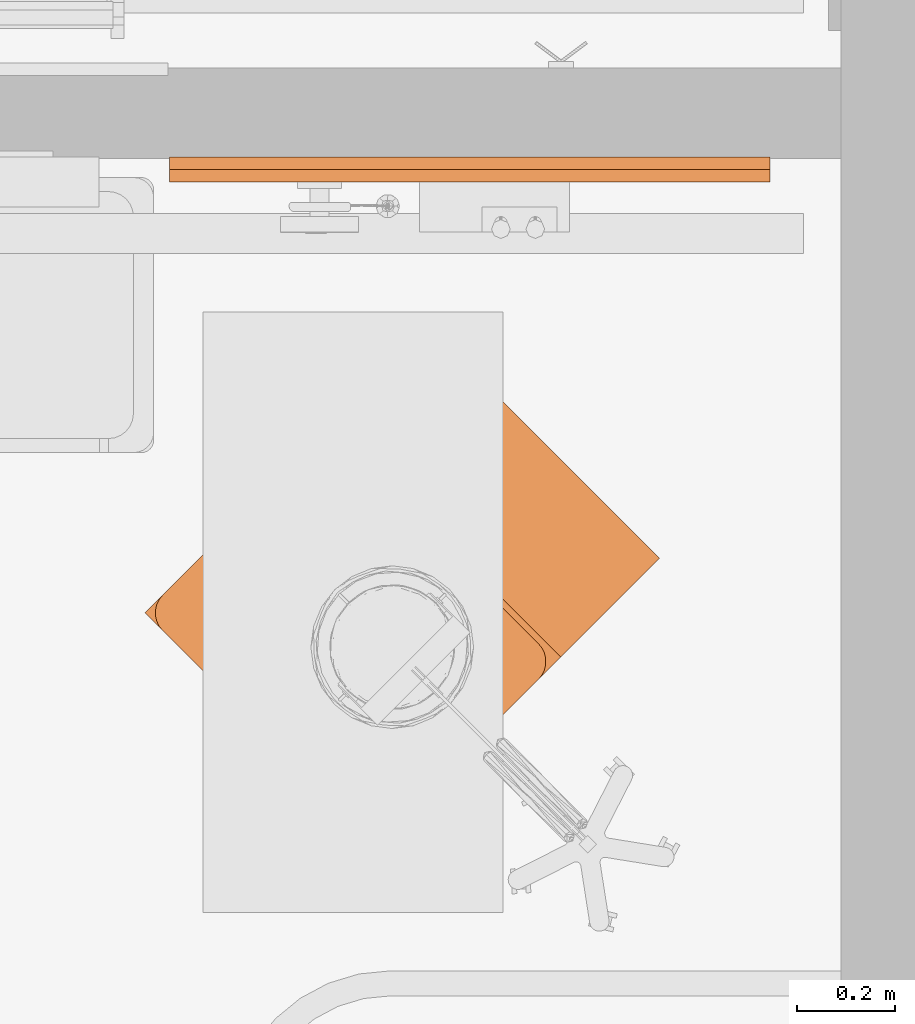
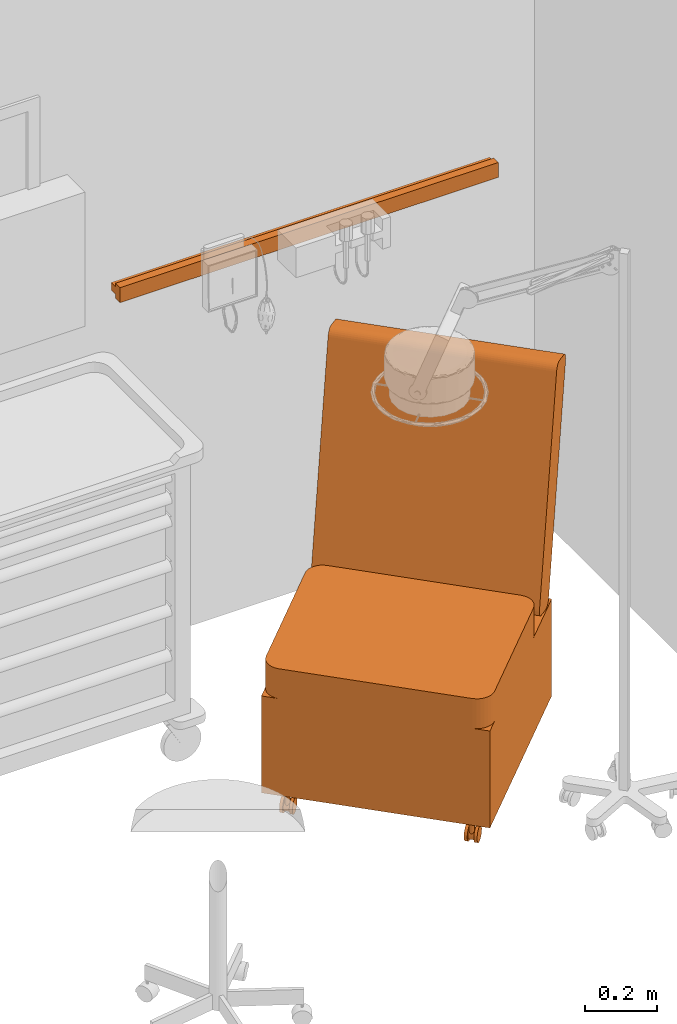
# One storey, part 67 of 142: 2 proxies.
"""IFC2X3 building model written with IfcOpenShell, lengths in feet."""

from ifc_helpers import new_model, entity, si_unit, converted_unit, derived_unit, direction, frame, frame_2d, origin, origin_2d_with_axis, place, context, subcontext, project, spatial, polyline, circle_curve, parameter, trimmed, segment, composite_curve, rectangle, circle, outline, extrude, source, transform, mapped, type_object, type_shapes, element, save


model = new_model("IFC2X3")

# Units and contexts
model_context = context("Model", 3, precision=0.0001, world=origin(), true_north=direction((6.12303176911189e-17, 1.0)))
body_context = subcontext(model_context, "Body", "Model", "MODEL_VIEW")
ifc_project = project(units=[converted_unit("LENGTHUNIT", "FOOT", entity("IfcRatioMeasure", 0.3048), si_unit("LENGTHUNIT", "METRE"), dimensions=[1, 0, 0, 0, 0, 0, 0]), converted_unit("AREAUNIT", "SQUARE FOOT", entity("IfcRatioMeasure", 0.09290304), si_unit("AREAUNIT", "SQUARE_METRE"), dimensions=[2, 0, 0, 0, 0, 0, 0]), converted_unit("VOLUMEUNIT", "CUBIC FOOT", entity("IfcRatioMeasure", 0.028316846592), si_unit("VOLUMEUNIT", "CUBIC_METRE"), dimensions=[3, 0, 0, 0, 0, 0, 0]), converted_unit("PLANEANGLEUNIT", "DEGREE", entity("IfcRatioMeasure", 0.0174532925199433), si_unit("PLANEANGLEUNIT", "RADIAN"), dimensions=[0, 0, 0, 0, 0, 0, 0]), si_unit("MASSUNIT", "GRAM", prefix="KILO"), derived_unit("MASSDENSITYUNIT", [(si_unit("MASSUNIT", "GRAM", prefix="KILO"), 1), (si_unit("LENGTHUNIT", "METRE"), -3)]), si_unit("TIMEUNIT", "SECOND"), si_unit("FREQUENCYUNIT", "HERTZ"), si_unit("THERMODYNAMICTEMPERATUREUNIT", "DEGREE_CELSIUS"), derived_unit("THERMALTRANSMITTANCEUNIT", [(si_unit("MASSUNIT", "GRAM", prefix="KILO"), 1), (si_unit("THERMODYNAMICTEMPERATUREUNIT", "KELVIN"), -1), (si_unit("TIMEUNIT", "SECOND"), -3)]), derived_unit("VOLUMETRICFLOWRATEUNIT", [(si_unit("LENGTHUNIT", "METRE"), 3), (si_unit("TIMEUNIT", "SECOND"), -1)]), si_unit("ELECTRICCURRENTUNIT", "AMPERE"), si_unit("ELECTRICVOLTAGEUNIT", "VOLT"), si_unit("POWERUNIT", "WATT"), si_unit("FORCEUNIT", "NEWTON"), si_unit("ILLUMINANCEUNIT", "LUX"), si_unit("LUMINOUSFLUXUNIT", "LUMEN"), si_unit("LUMINOUSINTENSITYUNIT", "CANDELA"), derived_unit("USERDEFINED", [(si_unit("MASSUNIT", "GRAM", prefix="KILO"), -1), (si_unit("LENGTHUNIT", "METRE"), -2), (si_unit("TIMEUNIT", "SECOND"), 3), (si_unit("LUMINOUSFLUXUNIT", "LUMEN"), 1)]), derived_unit("LINEARVELOCITYUNIT", [(si_unit("LENGTHUNIT", "METRE"), 1), (si_unit("TIMEUNIT", "SECOND"), -1)]), si_unit("PRESSUREUNIT", "PASCAL"), derived_unit("USERDEFINED", [(si_unit("LENGTHUNIT", "METRE"), -2), (si_unit("MASSUNIT", "GRAM", prefix="KILO"), 1), (si_unit("TIMEUNIT", "SECOND"), -2)])], contexts=[model_context])

# Site, building, storey, space
site_placement = place(None, origin())
site = spatial("IfcSite", under=ifc_project, at=site_placement, Name="Default", CompositionType="ELEMENT")
building_placement = place(site_placement, origin())
building = spatial("IfcBuilding", under=site, at=building_placement, Name="OUTPATIENT / PACT CLINIC (Ch. 265)", CompositionType="ELEMENT")
storey_placement = place(building_placement, origin())
storey = spatial("IfcBuildingStorey", under=building, at=storey_placement, Name="LEVEL 1", CompositionType="ELEMENT", Elevation=0.0)
space_placement = place(storey_placement, origin())
space = spatial("IfcSpace", under=storey, at=space_placement, Name="EXPA1", CompositionType="ELEMENT", InteriorOrExteriorSpace="INTERNAL")

# Proxies
building_element_proxy_type_1 = type_object("IfcBuildingElementProxyType", Name="Exam/Treatment Table with Cabinet", PredefinedType="NOTDEFINED")
shared_shape_1 = source(origin(), body_context, "Body", "SweptSolid", [
    extrude(circle(Radius=0.0833333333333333, at=frame_2d((0.0, -1.38777878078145e-16), x_axis=(1.0, 0.0))), frame((-0.843750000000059, 0.432291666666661, 0.0833333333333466), z_axis=(1.0, 0.0, 0.0), x_axis=(0.0, 1.0, 0.0)), (0.0, 0.0, 1.0), 0.0312500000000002),
    extrude(circle(Radius=0.0260416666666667, at=frame_2d((0.0, -5.55111512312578e-17), x_axis=(1.0, 0.0))), frame((-0.87500000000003, 0.463541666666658, 0.0801325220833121), z_axis=(0.0, 0.0, 1.0), x_axis=(-1.0, 0.0, 0.0)), (0.0, 0.0, 1.0), 0.211534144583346),
    extrude(circle(Radius=0.0625, at=frame_2d((0.0, -2.77555756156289e-16), x_axis=(1.0, 0.0))), frame((-0.90625000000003, 0.432291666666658, 0.0833333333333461), z_axis=(1.0, 0.0, 0.0), x_axis=(0.0, -1.0, 0.0)), (0.0, 0.0, 1.0), 0.0625),
    extrude(circle(Radius=0.0833333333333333, at=frame_2d((0.0, -1.38777878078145e-16), x_axis=(1.0, 0.0))), frame((-0.93750000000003, 0.432291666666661, 0.0833333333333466), z_axis=(1.0, 0.0, 0.0), x_axis=(0.0, 1.0, 0.0)), (0.0, 0.0, 1.0), 0.0312500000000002),
    extrude(circle(Radius=0.0833333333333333, at=frame_2d((0.0, -3.7470027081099e-16), x_axis=(1.0, 0.0))), frame((0.81250000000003, 0.432291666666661, 0.083333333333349), z_axis=(1.0, 0.0, 0.0), x_axis=(0.0, 1.0, 0.0)), (0.0, 0.0, 1.0), 0.0312500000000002),
    extrude(circle(Radius=0.0260416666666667, at=frame_2d((0.0, -5.55111512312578e-17), x_axis=(1.0, 0.0))), frame((0.875000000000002, 0.463541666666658, 0.0801325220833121)), (0.0, 0.0, 1.0), 0.211534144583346),
    extrude(circle(Radius=0.0625, at=frame_2d((0.0, -1.11022302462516e-16), x_axis=(1.0, 0.0))), frame((0.843750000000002, 0.432291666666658, 0.0833333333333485), z_axis=(1.0, 0.0, 0.0), x_axis=(0.0, -1.0, 0.0)), (0.0, 0.0, 1.0), 0.0625),
    extrude(circle(Radius=0.0833333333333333, at=frame_2d((0.0, -3.7470027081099e-16), x_axis=(1.0, 0.0))), frame((0.906250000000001, 0.432291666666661, 0.083333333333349), z_axis=(1.0, 0.0, 0.0), x_axis=(0.0, 1.0, 0.0)), (0.0, 0.0, 1.0), 0.0312500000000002),
    extrude(circle(Radius=0.0833333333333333, at=frame_2d((0.0, -1.38777878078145e-16), x_axis=(1.0, 0.0))), frame((-0.843750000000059, -1.41145833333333, 0.0833333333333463), z_axis=(1.0, 0.0, 0.0), x_axis=(0.0, -1.0, 0.0)), (0.0, 0.0, 1.0), 0.0312500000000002),
    extrude(circle(Radius=0.0260416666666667, at=origin_2d_with_axis()), frame((-0.87500000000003, -1.44270833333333, 0.0801325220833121), z_axis=(0.0, 0.0, 1.0), x_axis=(-1.0, 0.0, 0.0)), (0.0, 0.0, 1.0), 0.211534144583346),
    extrude(circle(Radius=0.0625, at=frame_2d((0.0, -2.77555756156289e-16), x_axis=(1.0, 0.0))), frame((-0.90625000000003, -1.41145833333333, 0.0833333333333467), z_axis=(1.0, 0.0, 0.0), x_axis=(0.0, 1.0, 0.0)), (0.0, 0.0, 1.0), 0.0625),
    extrude(circle(Radius=0.0833333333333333, at=frame_2d((0.0, -1.38777878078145e-16), x_axis=(1.0, 0.0))), frame((-0.93750000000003, -1.41145833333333, 0.0833333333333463), z_axis=(1.0, 0.0, 0.0), x_axis=(0.0, -1.0, 0.0)), (0.0, 0.0, 1.0), 0.0312500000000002),
    extrude(circle(Radius=0.0833333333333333, at=frame_2d((0.0, -3.7470027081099e-16), x_axis=(1.0, 0.0))), frame((0.81250000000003, -1.41145833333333, 0.0833333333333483), z_axis=(1.0, 0.0, 0.0), x_axis=(0.0, -1.0, 0.0)), (0.0, 0.0, 1.0), 0.0312500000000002),
    extrude(circle(Radius=0.0260416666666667, at=origin_2d_with_axis()), frame((0.875000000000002, -1.44270833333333, 0.0801325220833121)), (0.0, 0.0, 1.0), 0.211534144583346),
    extrude(circle(Radius=0.0625, at=frame_2d((0.0, -1.11022302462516e-16), x_axis=(1.0, 0.0))), frame((0.843750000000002, -1.41145833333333, 0.0833333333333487), z_axis=(1.0, 0.0, 0.0), x_axis=(0.0, 1.0, 0.0)), (0.0, 0.0, 1.0), 0.0625),
    extrude(circle(Radius=0.0833333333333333, at=frame_2d((0.0, -3.7470027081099e-16), x_axis=(1.0, 0.0))), frame((0.906250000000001, -1.41145833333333, 0.0833333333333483), z_axis=(1.0, 0.0, 0.0), x_axis=(0.0, -1.0, 0.0)), (0.0, 0.0, 1.0), 0.0312500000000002),
    extrude(rectangle(XDim=2.1666666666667, YDim=2.18316882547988, at=origin_2d_with_axis()), frame((0.0, -0.491748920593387, 0.291666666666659), z_axis=(0.0, 0.0, 1.0), x_axis=(-1.0, 0.0, 0.0)), (0.0, 0.0, 1.0), 1.08333333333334),
    extrude(outline(composite_curve([segment(trimmed(circle_curve(frame_2d((-0.221258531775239, -1.14772335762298), x_axis=(1.0, 0.0)), 0.0833333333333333), [parameter(255.0)], [parameter(345.0)], True, "PARAMETER"), True, "CONTINUOUS"), segment(polyline([(-0.140764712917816, -1.16929161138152), (0.462739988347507, 1.08301859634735)]), True, "CONTINUOUS"), segment(trimmed(circle_curve(frame_2d((0.382246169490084, 1.10458685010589), x_axis=(1.0, 0.0)), 0.0833333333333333), [parameter(345.000000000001)], [parameter(75.0000000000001)], True, "PARAMETER"), True, "CONTINUOUS"), segment(polyline([(0.403814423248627, 1.18508066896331), (0.242826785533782, 1.2282171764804)]), True, "CONTINUOUS"), segment(trimmed(circle_curve(frame_2d((0.221258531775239, 1.14772335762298), x_axis=(1.0, 0.0)), 0.0833333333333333), [parameter(74.9999999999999)], [parameter(165.0)], True, "PARAMETER"), True, "CONTINUOUS"), segment(polyline([(0.140764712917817, 1.16929161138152), (-0.462739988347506, -1.08301859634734)]), True, "CONTINUOUS"), segment(trimmed(circle_curve(frame_2d((-0.382246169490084, -1.10458685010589), x_axis=(1.0, 0.0)), 0.0833333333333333), [parameter(165.0)], [parameter(255.0)], True, "PARAMETER"), True, "CONTINUOUS"), segment(polyline([(-0.403814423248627, -1.18508066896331), (-0.242826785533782, -1.2282171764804)]), True, "CONTINUOUS")], self_intersect=False)), frame((-1.08333333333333, 0.632933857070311, 2.62668441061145), z_axis=(1.0, 0.0, 0.0), x_axis=(0.0, 1.0, 0.0)), (0.0, 0.0, 1.0), 2.16666666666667),
    extrude(outline(composite_curve([segment(polyline([(-0.916666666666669, -0.854166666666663), (0.91666666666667, -0.854166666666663)]), True, "CONTINUOUS"), segment(trimmed(circle_curve(frame_2d((0.916666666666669, -0.687499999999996), x_axis=(-1.0, 0.0)), 0.166666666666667), [parameter(90.0000000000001)], [parameter(180.0)], True, "PARAMETER"), True, "CONTINUOUS"), segment(polyline([(1.08333333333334, -0.687499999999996), (1.08333333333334, 0.687499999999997)]), True, "CONTINUOUS"), segment(trimmed(circle_curve(frame_2d((0.916666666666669, 0.687499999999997), x_axis=(-1.0, 0.0)), 0.166666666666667), [parameter(180.0)], [parameter(270.0)], True, "PARAMETER"), True, "CONTINUOUS"), segment(polyline([(0.916666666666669, 0.854166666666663), (-0.91666666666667, 0.854166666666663)]), True, "CONTINUOUS"), segment(trimmed(circle_curve(frame_2d((-0.916666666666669, 0.687499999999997), x_axis=(-1.0, 0.0)), 0.166666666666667), [parameter(270.0)], [parameter(0.0)], True, "PARAMETER"), True, "CONTINUOUS"), segment(polyline([(-1.08333333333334, 0.687499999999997), (-1.08333333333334, -0.687499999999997)]), True, "CONTINUOUS"), segment(trimmed(circle_curve(frame_2d((-0.916666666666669, -0.687499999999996), x_axis=(-1.0, 0.0)), 0.166666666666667), [parameter(0.0)], [parameter(90.0000000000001)], True, "PARAMETER"), True, "CONTINUOUS")], self_intersect=False)), frame((0.0, -0.729166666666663, 1.375), z_axis=(0.0, 0.0, 1.0), x_axis=(-1.0, 0.0, 0.0)), (0.0, 0.0, 1.0), 0.333333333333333),
])
type_shapes(building_element_proxy_type_1, [shared_shape_1])
proxy_1_placement = place(space_placement, frame((445.004061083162, -896.301642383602, 0.0260416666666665), z_axis=(0.0, 0.0, 1.0), x_axis=(0.707106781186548, -0.707106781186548, 0.0)))
element("IfcBuildingElementProxy", 1, at=proxy_1_placement, inside=space, type_object=building_element_proxy_type_1, Name="M9025 - Exam Table1:Exam/Treatment Table with Cabinet", ObjectType="Exam/Treatment Table with Cabinet", context=body_context, shape_type="MappedRepresentation", body=[
    mapped(shared_shape_1, transform((0.0, 0.0, 0.0), scale=1.0)),
])
building_element_proxy_type_2 = type_object("IfcBuildingElementProxyType", Name="A1132 - Rail, Accessory Mounting", PredefinedType="NOTDEFINED")
shared_shape_2 = source(origin(), body_context, "Body", "SweptSolid", [
    extrude(outline(polyline([(0.0416666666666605, 0.0), (0.0833333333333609, 0.0), (0.083333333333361, 0.0833333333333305), (-0.0833333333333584, 0.0833333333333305), (-0.0833333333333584, 0.0), (-0.0416666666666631, 0.0), (-0.0416666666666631, -0.0833333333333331), (0.0416666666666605, -0.0833333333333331), (0.0416666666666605, 0.0)])), frame((-2.0, -0.0833333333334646, 0.0833333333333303), z_axis=(1.0, 0.0, 0.0), x_axis=(0.0, 0.0, 1.0)), (0.0, 0.0, 1.0), 4.0),
])
type_shapes(building_element_proxy_type_2, [shared_shape_2])
proxy_2_placement = place(space_placement, frame((445.281018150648, -893.619107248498, 4.0)))
element("IfcBuildingElementProxy", 2, at=proxy_2_placement, inside=space, type_object=building_element_proxy_type_2, Name="A1132 - Rail, Accessory Mounting:A1132 - Rail, Accessory Mounting", ObjectType="A1132 - Rail, Accessory Mounting", context=body_context, shape_type="MappedRepresentation", body=[
    mapped(shared_shape_2, transform((0.0, 0.0, 0.0), scale=1.0)),
])

save(model, "model.ifc")
